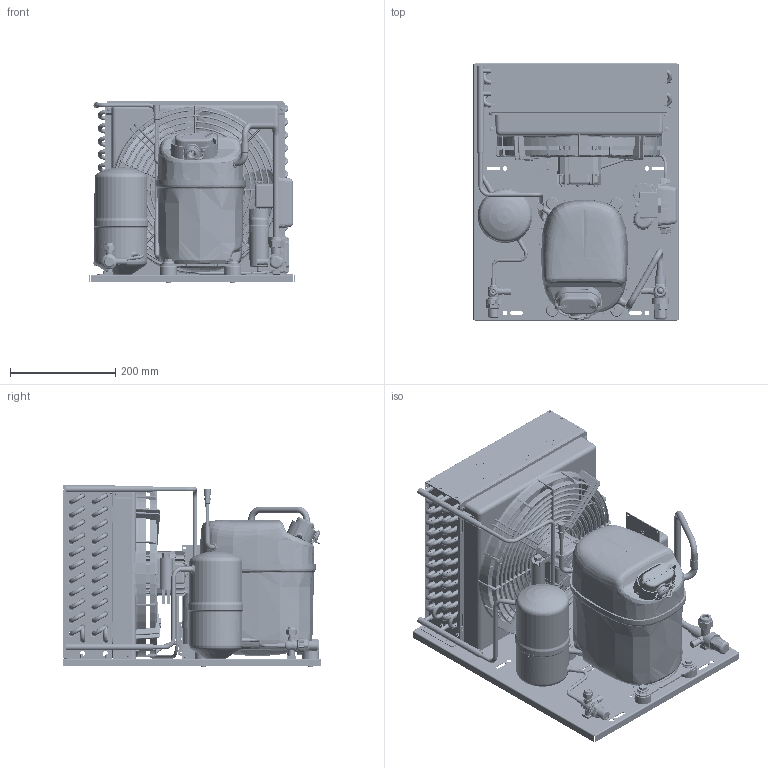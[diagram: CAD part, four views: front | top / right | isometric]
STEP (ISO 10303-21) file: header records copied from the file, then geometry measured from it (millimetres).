
FILE_DESCRIPTION(/* description */ ('Unknown'),/* implementation_level */ '2;1');
FILE_NAME(/* name */ '2298-0056',/* time_stamp */ '2022-01-10T12:03:12+01:00',/* author */ ('Unknown'),/* organization */ ('Unknown'),/* preprocessor_version */ 'ST-DEVELOPER v16.7',/* originating_system */ 'Solid Edge',/* authorisation */ 'Unknown');
FILE_SCHEMA (('AUTOMOTIVE_DESIGN {1 0 10303 214 3 1 1}'));
Products named in the file (48): 2298-0056; 92505124_oa_0; 1340315f70; r50115706; r50115707; 2990210; r59700361; r50115701; r50095108; r50115604; cg300n; 6062_22M6; a300-28; a300-28_costruzione; 100_200vs00; 84DM8X6.9XXESRF00; 84fm8x12xxxteff00; 6072_24M12; 84fm8x35xxxtesf00; 7010_22; 84RM10X21XXPIAF00; 84im8xxxxxxtref00; 7560_2; 107b9151; 7560_4; 84a4.2x9.5xtbcf01; 7030_4m12; gs34tb-a-csr_cilindro_piede; 8392_A; 7210-0003; 99510255; 8351_2; 99510255_Tubo; 84t4.8x8xxxtcca00_oa_1; 84t4.8x8xxxtcca00_oa_2; 84t4.8x8xxxtcca00_oa_3; 84t4.8x8xxxtcca00_oa_4; 99000082_SECOP_F-GAS; 680063703; 680081685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
Assembly tree (126 placements, depth 3):
  2298-0056
    92505124_oa_0
    1340315f70
      r50115706
      r50115707
      2990210  x24
      r59700361  x24
      r50115701
      r50095108
      r50115604  x2
    cg300n
    6062_22M6
    a300-28
      a300-28_costruzione  x5
    100_200vs00
    84DM8X6.9XXESRF00
    84fm8x12xxxteff00  x2
    6072_24M12
    84fm8x35xxxtesf00  x4
    7010_22
    84RM10X21XXPIAF00  x4
    84im8xxxxxxtref00  x4
    7560_2
    107b9151  x4
    7560_4
    84a4.2x9.5xtbcf01  x7
    7030_4m12
    gs34tb-a-csr_cilindro_piede  x4
    8392_A  x2
    7210-0003  x2
    99510255
      8351_2
      99510255_Tubo
      8392_A
    84t4.8x8xxxtcca00_oa_1
    84t4.8x8xxxtcca00_oa_2
    84t4.8x8xxxtcca00_oa_3
    84t4.8x8xxxtcca00_oa_4
    99000082_SECOP_F-GAS
    680063703
    680081685
    680081684
    84dm4x3.6xxesrf00  x4
    99000082_secop
    680123120
    55502413
    2298-0056_CAVO_VENTOLA
    1bt35-25-1vno
    gs26mfx-a-csr05
Bounding box: 390 x 490 x 346.82 mm (x, y, z)
Volume: 9480143.6 mm3; surface area: 3713606.4 mm2
Topology: 122 solids, 157 shells, 10542 faces, 27209 edges, 17448 vertices
Faces by surface type: plane 5507, cylinder 2151, bspline 1199, torus 872, cone 737, sphere 76
Full cylindrical faces by diameter (mm): 0.5 x1, 1 x3, 1.2 x4, 2.2 x4, 2.7 x4, 2.95 x7, 3 x13, 3.19 x3, 3.2 x4, 3.242 x4, 3.3 x2, 3.5 x15, 3.6 x6, 3.7 x4, 3.8 x7, 3.85 x1, 3.9 x2, 4 x18, 4.2 x11, 4.3 x1, 4.4 x4, 4.5 x14, 4.6 x5, 4.66 x4, 4.7 x4, 5 x9, 5.1 x2, 5.2 x1, 5.4 x4, 5.5 x11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
Entity records: 356672 total; most frequent: CARTESIAN_POINT 119343, ORIENTED_EDGE 44200, DIRECTION 34613, EDGE_CURVE 22386, VERTEX_POINT 15090, AXIS2_PLACEMENT_3D 12828, FACE_BOUND 11644, EDGE_LOOP 11642
